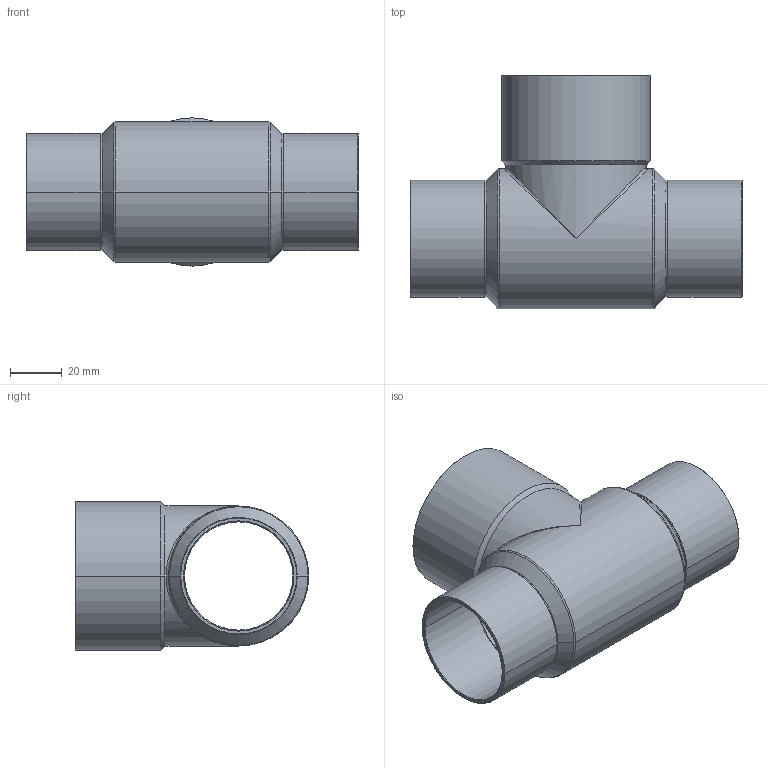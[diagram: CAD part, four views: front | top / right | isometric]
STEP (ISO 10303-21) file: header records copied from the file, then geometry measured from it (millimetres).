
FILE_DESCRIPTION((''),'2;1');
FILE_NAME('G:\Technics\CAD\Bauteile\15130\15130425442.stp','2005-11-03T13:43:12',('boden'),(''),'Autodesk Inventor 8','Autodesk Inventor 8','');
FILE_SCHEMA(('AUTOMOTIVE_DESIGN { 1 0 10303 214 1 1 1 1 }'));
Length unit declared in the file: millimetre
Products named in the file (1): 15130425442
Bounding box: 128 x 90 x 57.15 mm (x, y, z)
Volume: 37606.8 mm3; surface area: 50948.1 mm2
Topology: 1 solids, 1 shells, 71 faces, 166 edges, 88 vertices
Faces by surface type: cone 32, cylinder 28, torus 4, bspline 4, plane 3
Entity records: 2431 total; most frequent: CARTESIAN_POINT 802, DIRECTION 374, ORIENTED_EDGE 316, EDGE_CURVE 158, AXIS2_PLACEMENT_3D 156, VERTEX_POINT 88, CIRCLE 80, EDGE_LOOP 74
